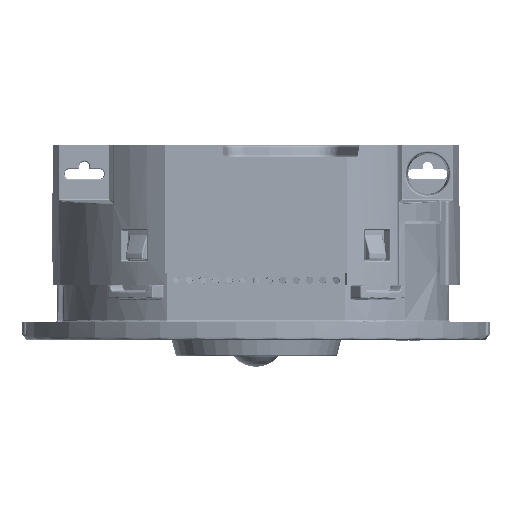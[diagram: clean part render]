
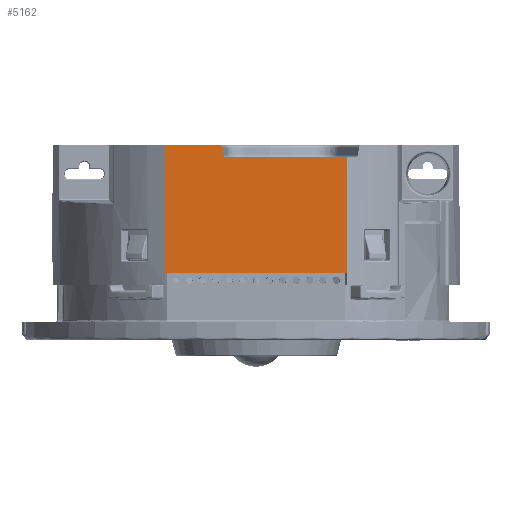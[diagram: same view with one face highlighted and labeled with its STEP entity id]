
A CAD part, left-side view. The second image highlights one B-rep face of the part: STEP entity #5162.
In plain terms, the highlighted planar face has unit normal (-1, 0, 0).
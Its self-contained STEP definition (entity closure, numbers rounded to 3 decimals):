
#5162=ADVANCED_FACE('',(#16370),#16371,.F.);
#16370=FACE_OUTER_BOUND('',#61030,.T.);
#16371=PLANE('',#61031);
#61030=EDGE_LOOP('',(#111525,#111526,#111527,#111528,#111529,#111530,#111531,#111532));
#61031=AXIS2_PLACEMENT_3D('',#111533,#111534,#111535);
#111525=ORIENTED_EDGE('',*,*,#129672,.F.);
#111526=ORIENTED_EDGE('',*,*,#129674,.F.);
#111527=ORIENTED_EDGE('',*,*,#129675,.F.);
#111528=ORIENTED_EDGE('',*,*,#129002,.T.);
#111529=ORIENTED_EDGE('',*,*,#129676,.F.);
#111530=ORIENTED_EDGE('',*,*,#129268,.T.);
#111531=ORIENTED_EDGE('',*,*,#128999,.F.);
#111532=ORIENTED_EDGE('',*,*,#128998,.T.);
#111533=CARTESIAN_POINT('',(-30.0,19.394,32.0));
#111534=DIRECTION('',(1.0,0.,0.));
#111535=DIRECTION('',(0.,1.0,0.0));
#128998=EDGE_CURVE('',#152067,#152069,#152071,.F.);
#128999=EDGE_CURVE('',#152067,#152072,#152073,.T.);
#129002=EDGE_CURVE('',#152077,#152075,#152078,.T.);
#129268=EDGE_CURVE('',#152492,#152072,#152493,.T.);
#129672=EDGE_CURVE('',#153152,#152069,#153153,.T.);
#129674=EDGE_CURVE('',#153155,#153152,#153156,.T.);
#129675=EDGE_CURVE('',#152077,#153155,#153157,.T.);
#129676=EDGE_CURVE('',#152492,#152075,#153158,.T.);
#152067=VERTEX_POINT('',#204467);
#152069=VERTEX_POINT('',#204470);
#152071=LINE('',#204473,#204474);
#152072=VERTEX_POINT('',#204475);
#152073=ELLIPSE('',#204476,0.508,0.5);
#152075=VERTEX_POINT('',#204479);
#152077=VERTEX_POINT('',#204482);
#152078=LINE('',#204483,#204484);
#152492=VERTEX_POINT('',#205211);
#152493=LINE('',#205212,#205213);
#153152=VERTEX_POINT('',#207301);
#153153=ELLIPSE('',#207302,0.508,0.5);
#153155=VERTEX_POINT('',#207305);
#153156=LINE('',#207306,#207307);
#153157=LINE('',#207308,#207309);
#153158=LINE('',#207310,#207311);
#204467=CARTESIAN_POINT('',(-30.0,5.338,30.448));
#204470=CARTESIAN_POINT('',(-30.0,5.455,31.552));
#204473=CARTESIAN_POINT('',(-30.0,5.582,32.737));
#204474=VECTOR('',#237353,10.);
#204475=CARTESIAN_POINT('',(-30.0,4.833,30.0));
#204476=AXIS2_PLACEMENT_3D('',#237354,#237355,#237356);
#204479=CARTESIAN_POINT('',(-30.0,-14.908,11.0));
#204482=CARTESIAN_POINT('',(-30.0,14.908,11.0));
#204483=CARTESIAN_POINT('',(-30.0,9.697,11.0));
#204484=VECTOR('',#237359,10.0);
#205211=CARTESIAN_POINT('',(-30.0,-14.908,30.0));
#205212=CARTESIAN_POINT('',(-30.0,2.816,30.0));
#205213=VECTOR('',#237886,10.0);
#207301=CARTESIAN_POINT('',(-30.0,5.96,32.0));
#207302=AXIS2_PLACEMENT_3D('',#238483,#238484,#238485);
#207305=CARTESIAN_POINT('',(-30.0,14.908,32.0));
#207306=CARTESIAN_POINT('',(-30.0,9.697,32.0));
#207307=VECTOR('',#238487,10.0);
#207308=CARTESIAN_POINT('',(-30.0,14.908,9.));
#207309=VECTOR('',#238488,10.0);
#207310=CARTESIAN_POINT('',(-30.0,-14.908,9.));
#207311=VECTOR('',#238489,10.0);
#237353=DIRECTION('',(0.,-0.106,-0.994));
#237354=CARTESIAN_POINT('',(-30.0,4.833,30.5));
#237355=DIRECTION('',(-1.0,0.,0.));
#237356=DIRECTION('',(0.,1.0,0.));
#237359=DIRECTION('',(0.,-1.0,0.));
#237886=DIRECTION('',(0.,1.0,0.));
#238483=CARTESIAN_POINT('',(-30.0,5.96,31.5));
#238484=DIRECTION('',(1.0,0.,0.));
#238485=DIRECTION('',(0.,-1.0,0.));
#238487=DIRECTION('',(0.,-1.0,0.));
#238488=DIRECTION('',(0.,0.,1.0));
#238489=DIRECTION('',(0.,0.,-1.0));
